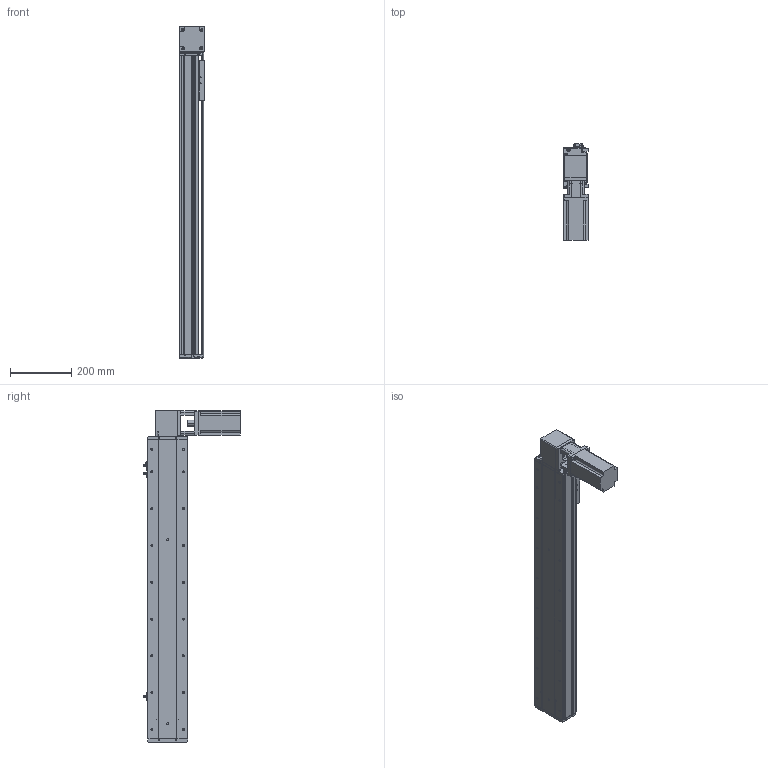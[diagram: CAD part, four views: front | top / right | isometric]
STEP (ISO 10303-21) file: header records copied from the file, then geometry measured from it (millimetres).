
FILE_DESCRIPTION (( 'STEP AP214' ), '1' );
FILE_NAME ('KSD130B-S750-MRT-CM.STEP', '2019-11-16T03:08:41', ( '微软用户' ), ( '微软中国' ), 'SwSTEP 2.0', 'SolidWorks 2014', '' );
FILE_SCHEMA (( 'AUTOMOTIVE_DESIGN' ));
Length unit declared in the file: millimetre
Products named in the file (12): 130宽马达安装板1-带电机座750W（1）; 覜茼え100遵圉猾敕; U倰嫖萇EEㄜSX672; 130宽安装板同步带带电机座750W; 130宽盖板半封闭同步带-750行程; 130宽马达安装板同步带左-改; 130宽马达安装板同步带半封闭; 130宽同步带安装座半封闭; 130宽端盖同步带半封闭; 130宽底板半封闭同步带-750行程; KSD130B-S750-MRT-CM; 台达ECMA－C20807AS伺服电机
Assembly tree (13 placements, depth 2):
  KSD130B-S750-MRT-CM
    130宽底板半封闭同步带-750行程
    130宽端盖同步带半封闭
    130宽同步带安装座半封闭
    130宽马达安装板同步带半封闭
    130宽马达安装板同步带左-改
    130宽盖板半封闭同步带-750行程
    130宽安装板同步带带电机座750W
    U倰嫖萇EEㄜSX672  x3
    覜茼え100遵圉猾敕
    130宽马达安装板1-带电机座750W（1）
    台达ECMA－C20807AS伺服电机
Bounding box: 81 x 316 x 1083 mm (x, y, z)
Volume: 4288405.7 mm3; surface area: 1106004.5 mm2
Topology: 14 solids, 14 shells, 1469 faces, 4172 edges, 2671 vertices
Faces by surface type: cylinder 703, plane 601, cone 165
Entity records: 47855 total; most frequent: CARTESIAN_POINT 8793, DIRECTION 7302, ORIENTED_EDGE 7012, EDGE_CURVE 3506, AXIS2_PLACEMENT_3D 2672, VERTEX_POINT 2295, VECTOR 1958, LINE 1958
